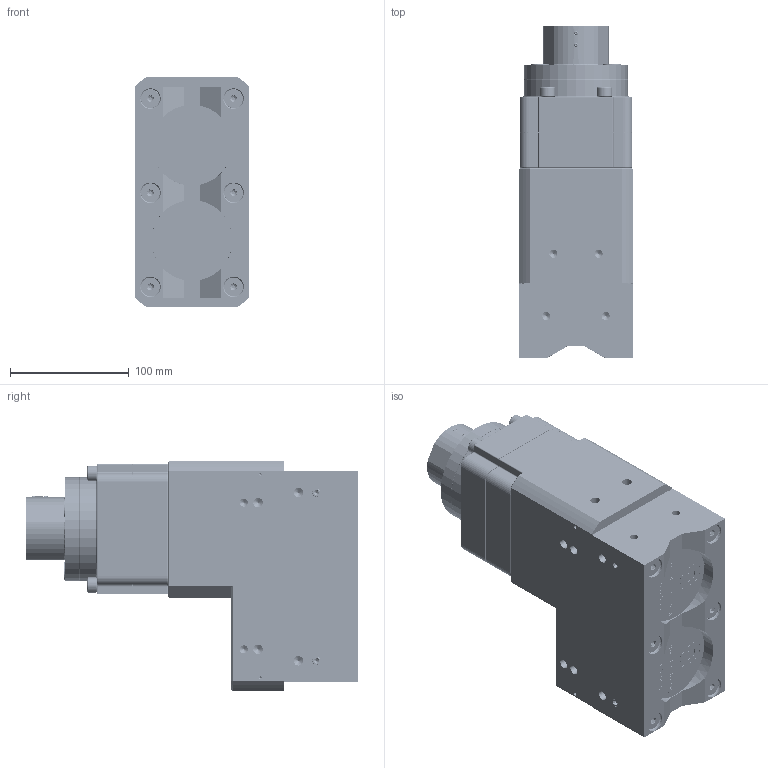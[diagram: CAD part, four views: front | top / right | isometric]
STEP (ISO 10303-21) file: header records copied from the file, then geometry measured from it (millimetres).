
FILE_DESCRIPTION (( 'STEP AP203' ), '1' );
FILE_NAME ('81401735_CFM.STEP', '2026-02-20T18:25:59', ( '' ), ( '' ), 'SwSTEP 2.0', 'SolidWorks 2024', '' );
FILE_SCHEMA (( 'CONFIG_CONTROL_DESIGN' ));
Products named in the file (1): 81401735_CFM
Bounding box: 96 x 279.25 x 193.5 mm (x, y, z)
Volume: 3055096.8 mm3; surface area: 441391.1 mm2
Topology: 54 solids, 54 shells, 5540 faces, 13943 edges, 8732 vertices
Faces by surface type: cylinder 1899, plane 1702, cone 935, bspline 932, torus 62, sphere 10
Entity records: 256802 total; most frequent: CARTESIAN_POINT 136517, ORIENTED_EDGE 27668, DIRECTION 20898, EDGE_CURVE 13834, VERTEX_POINT 8729, LINE 7022, VECTOR 7022, AXIS2_PLACEMENT_3D 6938
